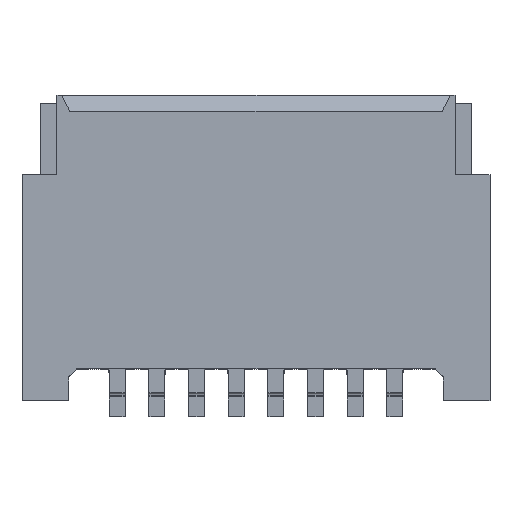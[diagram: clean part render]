
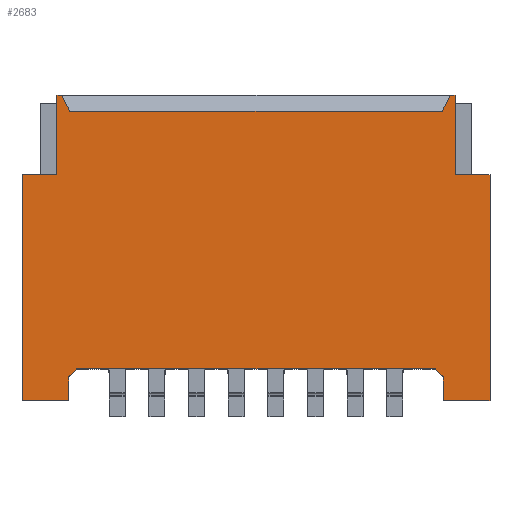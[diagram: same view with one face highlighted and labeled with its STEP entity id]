
A CAD part, top view. The second image highlights one B-rep face of the part: STEP entity #2683.
In plain terms, the highlighted planar face has unit normal (0, 0, 1).
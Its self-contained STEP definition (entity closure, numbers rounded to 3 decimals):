
#37 = VERTEX_POINT ( 'NONE', #6349 ) ;
#118 = VECTOR ( 'NONE', #1197, 1000. ) ;
#147 = LINE ( 'NONE', #1165, #496 ) ;
#334 = DIRECTION ( 'NONE',  ( -1., 0., 0. ) ) ;
#344 = CARTESIAN_POINT ( 'NONE',  ( -5.75, -1., 1.45 ) ) ;
#496 = VECTOR ( 'NONE', #7080, 1000. ) ;
#587 = DIRECTION ( 'NONE',  ( 0., -1., 0. ) ) ;
#635 = ORIENTED_EDGE ( 'NONE', *, *, #6232, .F. ) ;
#714 = CARTESIAN_POINT ( 'NONE',  ( -11.36, -3.55, 1.45 ) ) ;
#764 = VERTEX_POINT ( 'NONE', #5823 ) ;
#790 = CARTESIAN_POINT ( 'NONE',  ( -11.95, -1.925, 1.45 ) ) ;
#828 = ORIENTED_EDGE ( 'NONE', *, *, #7809, .T. ) ;
#860 = VERTEX_POINT ( 'NONE', #5953 ) ;
#924 = ORIENTED_EDGE ( 'NONE', *, *, #8157, .T. ) ;
#953 = LINE ( 'NONE', #1844, #7226 ) ;
#957 = EDGE_CURVE ( 'NONE', #7895, #1132, #8571, .T. ) ;
#1109 = VECTOR ( 'NONE', #7114, 1000. ) ;
#1113 = VERTEX_POINT ( 'NONE', #4406 ) ;
#1132 = VERTEX_POINT ( 'NONE', #4433 ) ;
#1165 = CARTESIAN_POINT ( 'NONE',  ( -5.75, -3.45, 1.45 ) ) ;
#1185 = CARTESIAN_POINT ( 'NONE',  ( -11.95, -3.85, 1.45 ) ) ;
#1189 = DIRECTION ( 'NONE',  ( -1., 0., 0. ) ) ;
#1197 = DIRECTION ( 'NONE',  ( 0., 1., 0. ) ) ;
#1238 = CARTESIAN_POINT ( 'NONE',  ( -12.25, 0., 1.45 ) ) ;
#1308 = CARTESIAN_POINT ( 'NONE',  ( -6.625, -0.15, 1.45 ) ) ;
#1453 = CARTESIAN_POINT ( 'NONE',  ( -6.49, 0., 1.45 ) ) ;
#1505 = VECTOR ( 'NONE', #9535, 1000. ) ;
#1647 = LINE ( 'NONE', #790, #8375 ) ;
#1677 = DIRECTION ( 'NONE',  ( 0.707, 0.707, 0. ) ) ;
#1719 = CARTESIAN_POINT ( 'NONE',  ( -6.64, -3.55, 1.45 ) ) ;
#1736 = LINE ( 'NONE', #6054, #5203 ) ;
#1831 = EDGE_CURVE ( 'NONE', #2611, #2860, #1736, .T. ) ;
#1844 = CARTESIAN_POINT ( 'NONE',  ( -5.75, 0., 1.45 ) ) ;
#2152 = CARTESIAN_POINT ( 'NONE',  ( -6.64, -1.925, 1.45 ) ) ;
#2164 = CARTESIAN_POINT ( 'NONE',  ( -11.95, -1., 1.45 ) ) ;
#2387 = LINE ( 'NONE', #1308, #6442 ) ;
#2421 = VECTOR ( 'NONE', #6570, 1000. ) ;
#2430 = CARTESIAN_POINT ( 'NONE',  ( -12.25, -3.85, 1.45 ) ) ;
#2455 = DIRECTION ( 'NONE',  ( -1., 0., 0. ) ) ;
#2538 = CARTESIAN_POINT ( 'NONE',  ( -6.49, -1., 1.45 ) ) ;
#2611 = VERTEX_POINT ( 'NONE', #1453 ) ;
#2655 = EDGE_CURVE ( 'NONE', #8897, #3250, #5290, .T. ) ;
#2683 = ADVANCED_FACE ( 'NONE', ( #5055 ), #5811, .T. ) ;
#2689 = CARTESIAN_POINT ( 'NONE',  ( -11.36, -1.925, 1.45 ) ) ;
#2745 = ORIENTED_EDGE ( 'NONE', *, *, #6763, .F. ) ;
#2849 = DIRECTION ( 'NONE',  ( -0.707, 0.707, 0. ) ) ;
#2860 = VERTEX_POINT ( 'NONE', #2538 ) ;
#2872 = VERTEX_POINT ( 'NONE', #3305 ) ;
#2916 = CARTESIAN_POINT ( 'NONE',  ( -6.64, -3.55, 1.45 ) ) ;
#3006 = ORIENTED_EDGE ( 'NONE', *, *, #5831, .T. ) ;
#3250 = VERTEX_POINT ( 'NONE', #8299 ) ;
#3278 = ORIENTED_EDGE ( 'NONE', *, *, #5254, .F. ) ;
#3305 = CARTESIAN_POINT ( 'NONE',  ( -6.55, 0., 1.45 ) ) ;
#3425 = CARTESIAN_POINT ( 'NONE',  ( -11.375, -0.15, 1.45 ) ) ;
#3456 = ORIENTED_EDGE ( 'NONE', *, *, #6217, .T. ) ;
#3630 = CARTESIAN_POINT ( 'NONE',  ( -6.05, -1.925, 1.45 ) ) ;
#3749 = DIRECTION ( 'NONE',  ( 0., 1., 0. ) ) ;
#3751 = VECTOR ( 'NONE', #6007, 1000. ) ;
#3773 = DIRECTION ( 'NONE',  ( 1., 0., 0. ) ) ;
#3776 = DIRECTION ( 'NONE',  ( 0., -1., 0. ) ) ;
#3779 = ORIENTED_EDGE ( 'NONE', *, *, #9397, .T. ) ;
#3850 = LINE ( 'NONE', #2689, #118 ) ;
#3857 = CARTESIAN_POINT ( 'NONE',  ( -11.36, -3.55, 1.45 ) ) ;
#3941 = VERTEX_POINT ( 'NONE', #6183 ) ;
#4039 = VERTEX_POINT ( 'NONE', #4340 ) ;
#4202 = LINE ( 'NONE', #8874, #3751 ) ;
#4340 = CARTESIAN_POINT ( 'NONE',  ( -6.05, -1., 1.45 ) ) ;
#4406 = CARTESIAN_POINT ( 'NONE',  ( -6.64, -3.85, 1.45 ) ) ;
#4424 = ORIENTED_EDGE ( 'NONE', *, *, #2655, .F. ) ;
#4433 = CARTESIAN_POINT ( 'NONE',  ( -11.36, -3.85, 1.45 ) ) ;
#4713 = ORIENTED_EDGE ( 'NONE', *, *, #8440, .T. ) ;
#5016 = DIRECTION ( 'NONE',  ( 0., 0., 1. ) ) ;
#5033 = LINE ( 'NONE', #2430, #6101 ) ;
#5055 = FACE_OUTER_BOUND ( 'NONE', #9352, .T. ) ;
#5203 = VECTOR ( 'NONE', #5324, 1000. ) ;
#5254 = EDGE_CURVE ( 'NONE', #8529, #2872, #2387, .T. ) ;
#5289 = AXIS2_PLACEMENT_3D ( 'NONE', #1185, #5016, #5931 ) ;
#5290 = LINE ( 'NONE', #2916, #7413 ) ;
#5312 = CARTESIAN_POINT ( 'NONE',  ( -11.35, -0.2, 1.45 ) ) ;
#5324 = DIRECTION ( 'NONE',  ( 0., -1., 0. ) ) ;
#5347 = EDGE_CURVE ( 'NONE', #5549, #3941, #8766, .T. ) ;
#5538 = ORIENTED_EDGE ( 'NONE', *, *, #9338, .F. ) ;
#5549 = VERTEX_POINT ( 'NONE', #5312 ) ;
#5738 = VECTOR ( 'NONE', #1677, 1000. ) ;
#5798 = LINE ( 'NONE', #2152, #7663 ) ;
#5811 = PLANE ( 'NONE',  #5289 ) ;
#5823 = CARTESIAN_POINT ( 'NONE',  ( -11.26, -3.45, 1.45 ) ) ;
#5831 = EDGE_CURVE ( 'NONE', #764, #3250, #147, .T. ) ;
#5837 = EDGE_CURVE ( 'NONE', #860, #6035, #7721, .T. ) ;
#5863 = ORIENTED_EDGE ( 'NONE', *, *, #9123, .T. ) ;
#5931 = DIRECTION ( 'NONE',  ( 1., 0., 0. ) ) ;
#5953 = CARTESIAN_POINT ( 'NONE',  ( -11.51, -1., 1.45 ) ) ;
#5981 = CARTESIAN_POINT ( 'NONE',  ( -5.75, -3.85, 1.45 ) ) ;
#6007 = DIRECTION ( 'NONE',  ( 1., 0., 0. ) ) ;
#6035 = VERTEX_POINT ( 'NONE', #2164 ) ;
#6039 = LINE ( 'NONE', #9472, #9259 ) ;
#6054 = CARTESIAN_POINT ( 'NONE',  ( -6.49, -1.925, 1.45 ) ) ;
#6101 = VECTOR ( 'NONE', #2455, 1000. ) ;
#6111 = ORIENTED_EDGE ( 'NONE', *, *, #5837, .T. ) ;
#6183 = CARTESIAN_POINT ( 'NONE',  ( -11.45, 0., 1.45 ) ) ;
#6217 = EDGE_CURVE ( 'NONE', #8606, #764, #7501, .T. ) ;
#6232 = EDGE_CURVE ( 'NONE', #7994, #1113, #5033, .T. ) ;
#6252 = ORIENTED_EDGE ( 'NONE', *, *, #1831, .F. ) ;
#6270 = VECTOR ( 'NONE', #1189, 1000. ) ;
#6349 = CARTESIAN_POINT ( 'NONE',  ( -11.51, 0., 1.45 ) ) ;
#6365 = DIRECTION ( 'NONE',  ( -1., 0., 0. ) ) ;
#6371 = VECTOR ( 'NONE', #3773, 1000. ) ;
#6442 = VECTOR ( 'NONE', #6500, 1000. ) ;
#6500 = DIRECTION ( 'NONE',  ( 0.447, 0.894, 0. ) ) ;
#6570 = DIRECTION ( 'NONE',  ( 1., 0., 0. ) ) ;
#6612 = LINE ( 'NONE', #1238, #2421 ) ;
#6621 = LINE ( 'NONE', #3630, #1505 ) ;
#6763 = EDGE_CURVE ( 'NONE', #2872, #2611, #6612, .T. ) ;
#7014 = VECTOR ( 'NONE', #6365, 1000. ) ;
#7080 = DIRECTION ( 'NONE',  ( 1., 0., 0. ) ) ;
#7085 = CARTESIAN_POINT ( 'NONE',  ( -6.65, -0.2, 1.45 ) ) ;
#7089 = LINE ( 'NONE', #9381, #6270 ) ;
#7114 = DIRECTION ( 'NONE',  ( -0.447, 0.894, 0. ) ) ;
#7226 = VECTOR ( 'NONE', #334, 1000. ) ;
#7413 = VECTOR ( 'NONE', #2849, 1000. ) ;
#7501 = LINE ( 'NONE', #3857, #5738 ) ;
#7517 = EDGE_CURVE ( 'NONE', #2860, #4039, #4202, .T. ) ;
#7663 = VECTOR ( 'NONE', #3749, 1000. ) ;
#7721 = LINE ( 'NONE', #344, #7014 ) ;
#7809 = EDGE_CURVE ( 'NONE', #3941, #37, #953, .T. ) ;
#7895 = VERTEX_POINT ( 'NONE', #9378 ) ;
#7994 = VERTEX_POINT ( 'NONE', #9509 ) ;
#8157 = EDGE_CURVE ( 'NONE', #6035, #7895, #1647, .T. ) ;
#8231 = ORIENTED_EDGE ( 'NONE', *, *, #5347, .T. ) ;
#8299 = CARTESIAN_POINT ( 'NONE',  ( -6.74, -3.45, 1.45 ) ) ;
#8307 = ORIENTED_EDGE ( 'NONE', *, *, #7517, .F. ) ;
#8375 = VECTOR ( 'NONE', #3776, 1000. ) ;
#8440 = EDGE_CURVE ( 'NONE', #1132, #8606, #3850, .T. ) ;
#8529 = VERTEX_POINT ( 'NONE', #7085 ) ;
#8571 = LINE ( 'NONE', #5981, #6371 ) ;
#8606 = VERTEX_POINT ( 'NONE', #714 ) ;
#8766 = LINE ( 'NONE', #3425, #1109 ) ;
#8874 = CARTESIAN_POINT ( 'NONE',  ( -12.25, -1., 1.45 ) ) ;
#8897 = VERTEX_POINT ( 'NONE', #1719 ) ;
#9123 = EDGE_CURVE ( 'NONE', #8529, #5549, #7089, .T. ) ;
#9255 = ORIENTED_EDGE ( 'NONE', *, *, #957, .T. ) ;
#9259 = VECTOR ( 'NONE', #587, 1000. ) ;
#9338 = EDGE_CURVE ( 'NONE', #4039, #7994, #6621, .T. ) ;
#9352 = EDGE_LOOP ( 'NONE', ( #3006, #4424, #9576, #635, #5538, #8307, #6252, #2745, #3278, #5863, #8231, #828, #3779, #6111, #924, #9255, #4713, #3456 ) ) ;
#9378 = CARTESIAN_POINT ( 'NONE',  ( -11.95, -3.85, 1.45 ) ) ;
#9381 = CARTESIAN_POINT ( 'NONE',  ( -5.75, -0.2, 1.45 ) ) ;
#9397 = EDGE_CURVE ( 'NONE', #37, #860, #6039, .T. ) ;
#9447 = EDGE_CURVE ( 'NONE', #1113, #8897, #5798, .T. ) ;
#9472 = CARTESIAN_POINT ( 'NONE',  ( -11.51, -1.925, 1.45 ) ) ;
#9509 = CARTESIAN_POINT ( 'NONE',  ( -6.05, -3.85, 1.45 ) ) ;
#9535 = DIRECTION ( 'NONE',  ( 0., -1., 0. ) ) ;
#9576 = ORIENTED_EDGE ( 'NONE', *, *, #9447, .F. ) ;
